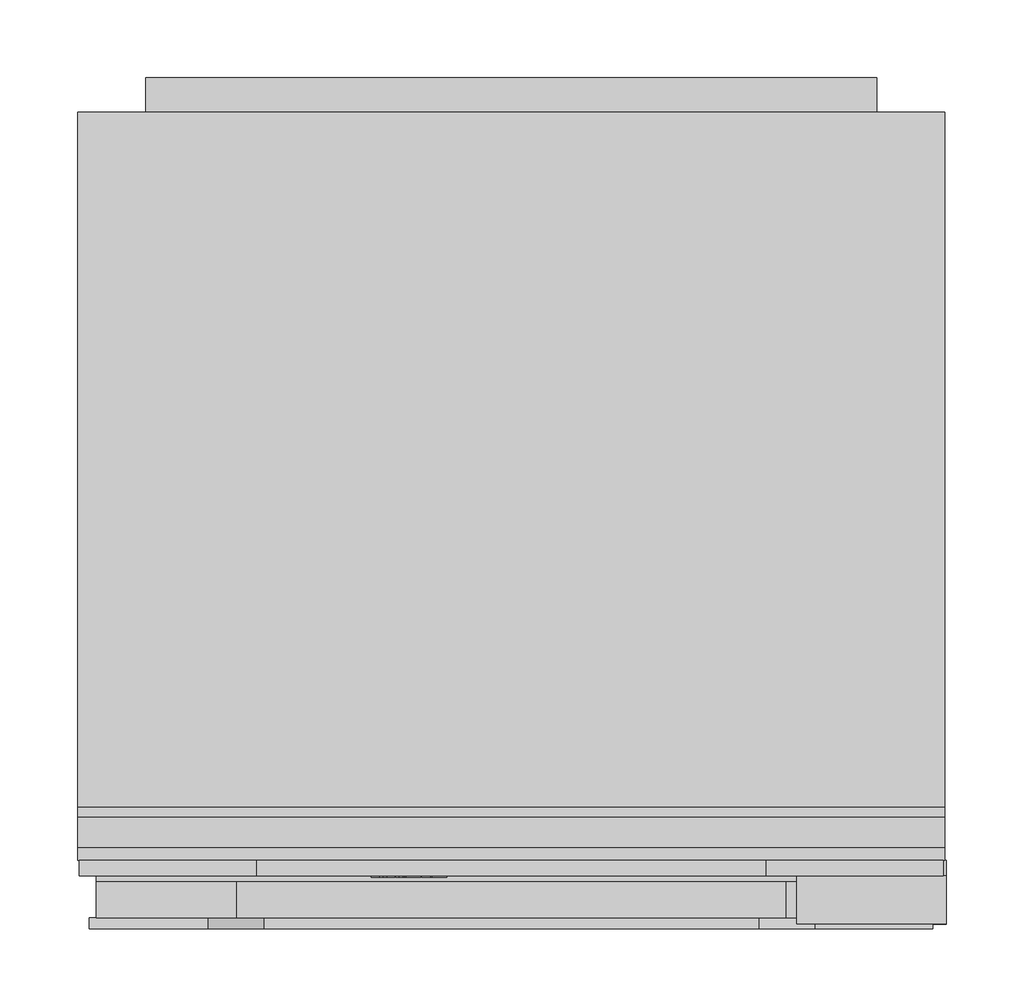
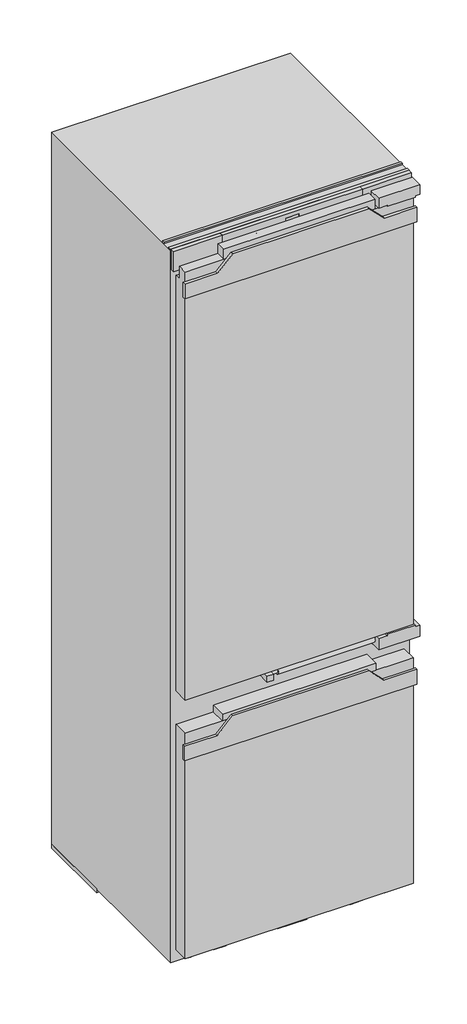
# Not in any storey: 1 proxy.
"""IFC4 building model written with IfcOpenShell, lengths in millimetres."""

import ifcopenshell
import ifcopenshell.guid

model = None  # the IFC model being written
_history = None  # IfcOwnerHistory: only IFC2X3 demands one
_inside = {}  # id of a spatial element -> (the spatial element, [elements in it])
_under = {}  # id of a project, library or spatial element -> (it, [spatial elements below it])
_declared = {}  # id of a project -> (the project, [libraries it declares])
_typed = {}  # id of a type object -> (the type object, [elements of that type])
_made_of = {}  # id of a material, layer set ... -> (it, [elements and type objects made of it])


def new_model(schema):
    """Start an empty IFC model of exactly this schema.

    Asked for "IFC4X3", IfcOpenShell would pick the latest addendum, in which some entities
    have other attributes; the version numbers below select the first issue.
    IFC2X3 requires an IfcOwnerHistory on every rooted entity: one is made here for all.
    """
    global model, _history
    if schema == "IFC4X3":
        model = ifcopenshell.file(schema_version=(4, 3, 0, 0))
    else:
        model = ifcopenshell.file(schema=schema)
    _inside.clear()
    _under.clear()
    _declared.clear()
    _typed.clear()
    _made_of.clear()
    _history = None
    if model.schema == "IFC2X3":
        org = make("IfcOrganization", Name="unknown")
        user = make(
            "IfcPersonAndOrganization",
            ThePerson=make("IfcPerson", FamilyName="unknown"),
            TheOrganization=org,
        )
        app = make(
            "IfcApplication",
            ApplicationDeveloper=org,
            Version="unknown",
            ApplicationFullName="unknown",
            ApplicationIdentifier="unknown",
        )
        _history = make(
            "IfcOwnerHistory",
            OwningUser=user,
            OwningApplication=app,
            ChangeAction="ADDED",
            CreationDate=0,
        )
    return model


def make(cls, **values):
    """One entity of the class cls with the attributes given. An attribute that is None is left unset."""
    return model.create_entity(
        cls, **{name: value for name, value in values.items() if value is not None}
    )


def rooted(cls, **values):
    """An entity with a GlobalId (a new one), such as an element, a storey or a relation."""
    return make(cls, GlobalId=ifcopenshell.guid.new(), OwnerHistory=_history, **values)


def si_unit(unit_type, name, prefix=None):
    """IfcSIUnit, for example si_unit("LENGTHUNIT", "METRE", prefix="MILLI")."""
    return make("IfcSIUnit", UnitType=unit_type, Prefix=prefix, Name=name)


def assignment(units):
    """IfcUnitAssignment: the units of a project."""
    return None if units is None else make("IfcUnitAssignment", Units=units)


def point(xyz):
    """IfcCartesianPoint."""
    return None if xyz is None else make("IfcCartesianPoint", Coordinates=xyz)


def direction(xyz):
    """IfcDirection."""
    return None if xyz is None else make("IfcDirection", DirectionRatios=xyz)


def frame(location, z_axis=None, x_axis=None):
    """IfcAxis2Placement3D, a coordinate frame: its origin and axes. An axis left out is left unset."""
    return make(
        "IfcAxis2Placement3D",
        Location=point(location),
        Axis=direction(z_axis),
        RefDirection=direction(x_axis),
    )


def frame_2d(location, x_axis=None):
    """IfcAxis2Placement2D, a coordinate frame in the plane: its origin and x axis."""
    return make(
        "IfcAxis2Placement2D", Location=point(location), RefDirection=direction(x_axis)
    )


def origin():
    """The frame at (0, 0, 0) with its axes left unset."""
    return frame((0.0, 0.0, 0.0))


def origin_with_axes():
    """The frame at (0, 0, 0) with the z axis (0, 0, 1) and the x axis (1, 0, 0) written out."""
    return frame((0.0, 0.0, 0.0), z_axis=(0.0, 0.0, 1.0), x_axis=(1.0, 0.0, 0.0))


def place(relative_to, where):
    """IfcLocalPlacement: puts the frame where relative to a parent placement (None: the world)."""
    return make(
        "IfcLocalPlacement", PlacementRelTo=relative_to, RelativePlacement=where
    )


def context(
    kind, dimensions, precision=None, world=None, true_north=None, identifier=None
):
    """IfcGeometricRepresentationContext, for example the 3D "Model" context."""
    return make(
        "IfcGeometricRepresentationContext",
        ContextIdentifier=identifier,
        ContextType=kind,
        CoordinateSpaceDimension=dimensions,
        Precision=precision,
        WorldCoordinateSystem=world,
        TrueNorth=true_north,
    )


def project(units=None, contexts=None):
    """IfcProject with its units and contexts."""
    return rooted(
        "IfcProject",
        Name="project",
        RepresentationContexts=contexts,
        UnitsInContext=assignment(units),
    )


def spatial(cls, under=None, at=None, **own):
    """A site, building, storey or space (cls), placed at a placement, below another one or the project."""
    s = rooted(cls, ObjectPlacement=at, **own)
    if under is not None:
        _under.setdefault(under.id(), (under, []))[1].append(s)
    return s


def polyline(points):
    """IfcPolyline through the points."""
    return make("IfcPolyline", Points=[point(p) for p in points])


def circle_curve(where, radius):
    """IfcCircle in the frame where."""
    return make("IfcCircle", Position=where, Radius=radius)


def ellipse_curve(where, semi_axis1, semi_axis2):
    """IfcEllipse in the frame where."""
    return make(
        "IfcEllipse", Position=where, SemiAxis1=semi_axis1, SemiAxis2=semi_axis2
    )


def trimmed(basis, trim1, trim2, sense, master):
    """IfcTrimmedCurve: the piece of a basis curve between two trims."""
    return make(
        "IfcTrimmedCurve",
        BasisCurve=basis,
        Trim1=trim1,
        Trim2=trim2,
        SenseAgreement=sense,
        MasterRepresentation=master,
    )


def segment(curve, same_sense, transition):
    """IfcCompositeCurveSegment."""
    return make(
        "IfcCompositeCurveSegment",
        Transition=transition,
        SameSense=same_sense,
        ParentCurve=curve,
    )


def composite_curve(segments, self_intersect=None):
    """IfcCompositeCurve: segments joined end to end."""
    return make("IfcCompositeCurve", Segments=segments, SelfIntersect=self_intersect)


def outline(outer, holes=None, kind="AREA"):
    """IfcArbitraryClosedProfileDef: a profile drawn as a closed curve; with holes, ...WithVoids."""
    if holes is None:
        return make("IfcArbitraryClosedProfileDef", ProfileType=kind, OuterCurve=outer)
    return make(
        "IfcArbitraryProfileDefWithVoids",
        ProfileType=kind,
        OuterCurve=outer,
        InnerCurves=holes,
    )


def extrude(swept, where, along, depth):
    """IfcExtrudedAreaSolid: the profile swept, set in the frame where, extruded along a direction by depth."""
    return make(
        "IfcExtrudedAreaSolid",
        SweptArea=swept,
        Position=where,
        ExtrudedDirection=direction(along),
        Depth=depth,
    )


def faces_of(points, faces, orient=None, outer=None):
    """IfcFace entities. A face is a list of loops; a loop is a list of indices into points, from 0.

    orient and outer hold one flag for each loop. By default every Orientation is true, the
    first loop of a face is its IfcFaceOuterBound and the others are IfcFaceBound.
    """
    made = []
    for i, loops in enumerate(faces):
        bounds = []
        for j, loop in enumerate(loops):
            is_outer = j == 0 if outer is None else outer[i][j]
            bounds.append(
                make(
                    "IfcFaceOuterBound" if is_outer else "IfcFaceBound",
                    Bound=make("IfcPolyLoop", Polygon=[points[k] for k in loop]),
                    Orientation=True if orient is None else orient[i][j],
                )
            )
        made.append(make("IfcFace", Bounds=bounds))
    return made


def faceted_brep(points, faces, orient=None, outer=None, voids=None):
    """IfcFacetedBrep: a solid bounded by flat faces; with voids (closed shells), ...WithVoids."""
    shared = [point(p) for p in points]
    hull = make("IfcClosedShell", CfsFaces=faces_of(shared, faces, orient, outer))
    if voids is None:
        return make("IfcFacetedBrep", Outer=hull)
    return make(
        "IfcFacetedBrepWithVoids",
        Outer=hull,
        Voids=[
            make(cls, CfsFaces=faces_of(shared, fs, o, b)) for cls, fs, o, b in voids
        ],
    )


def shape(context_of_items, identifier, shape_type, items):
    """IfcShapeRepresentation: the items that make up one representation, for example the "Body"."""
    return make(
        "IfcShapeRepresentation",
        ContextOfItems=context_of_items,
        RepresentationIdentifier=identifier,
        RepresentationType=shape_type,
        Items=items,
    )


def source(mapping_origin, context_of_items, identifier, shape_type, items):
    """IfcRepresentationMap: a shape defined once, which mapped items show again and again."""
    return make(
        "IfcRepresentationMap",
        MappingOrigin=mapping_origin,
        MappedRepresentation=shape(context_of_items, identifier, shape_type, items),
    )


def transform(
    local_origin,
    x_axis=None,
    y_axis=None,
    z_axis=None,
    scale=None,
    scale2=None,
    scale3=None,
    uniform=True,
):
    """IfcCartesianTransformationOperator3D, or its non-uniform kind. x_axis, y_axis, z_axis: its Axis1, 2, 3."""
    if uniform:
        return make(
            "IfcCartesianTransformationOperator3D",
            Axis1=direction(x_axis),
            Axis2=direction(y_axis),
            LocalOrigin=point(local_origin),
            Scale=scale,
            Axis3=direction(z_axis),
        )
    return make(
        "IfcCartesianTransformationOperator3DnonUniform",
        Axis1=direction(x_axis),
        Axis2=direction(y_axis),
        LocalOrigin=point(local_origin),
        Scale=scale,
        Axis3=direction(z_axis),
        Scale2=scale2,
        Scale3=scale3,
    )


def mapped(mapping_source, mapping_target):
    """IfcMappedItem: shows the shape of a source again, moved by a transform."""
    return make(
        "IfcMappedItem", MappingSource=mapping_source, MappingTarget=mapping_target
    )


def made_of(thing, what):
    """Note that an element or type object is made of a material, layer set ...; save() writes the relation."""
    if what is not None:
        _made_of.setdefault(what.id(), (what, []))[1].append(thing)
    return thing


def element(
    cls,
    number,
    at=None,
    inside=None,
    cuts=None,
    type_object=None,
    material=None,
    context=None,
    identifier="Body",
    shape_type=None,
    held_by="IfcProductDefinitionShape",
    body=None,
    shapes=None,
    **own,
):
    """One element of the class cls, such as IfcWall. Its Tag is "e" and its number.

    at: its placement. inside: the storey or other place that contains it. cuts: it is an
    opening in that element (IfcRelVoidsElement). A single representation is given by context,
    identifier, shape_type and body (its items); several are given by shapes. held_by: the class
    of the entity that holds the representations. save() writes the other relations.
    """
    e = rooted(cls, Tag="e%d" % number, ObjectPlacement=at, **own)
    if body is not None:
        shapes = [shape(context, identifier, shape_type, body)]
    if shapes is not None:
        e.Representation = make(held_by, Representations=shapes)
    if inside is not None:
        _inside.setdefault(inside.id(), (inside, []))[1].append(e)
    if cuts is not None:
        rooted(
            "IfcRelVoidsElement", RelatingBuildingElement=cuts, RelatedOpeningElement=e
        )
    if type_object is not None:
        _typed.setdefault(type_object.id(), (type_object, []))[1].append(e)
    return made_of(e, material)


def aggregate(whole, parts):
    """IfcRelAggregates: a whole, such as a stair, and the parts it consists of."""
    return rooted("IfcRelAggregates", RelatingObject=whole, RelatedObjects=parts)


def save(model, path):
    """Write the relations noted so far, then the file.

    IfcRelAggregates (storeys below a building ...), IfcRelContainedInSpatialStructure (elements
    in a storey), IfcRelDefinesByType, IfcRelAssociatesMaterial and IfcRelDeclares: one each for
    every whole, place, type object, material and project.
    """
    for whole, parts in _under.values():
        aggregate(whole, parts)
    for where, things in _inside.values():
        rooted(
            "IfcRelContainedInSpatialStructure",
            RelatedElements=things,
            RelatingStructure=where,
        )
    for kind, things in _typed.values():
        rooted("IfcRelDefinesByType", RelatedObjects=things, RelatingType=kind)
    for what, things in _made_of.values():
        rooted("IfcRelAssociatesMaterial", RelatedObjects=things, RelatingMaterial=what)
    for by, libraries in _declared.values():
        rooted("IfcRelDeclares", RelatingContext=by, RelatedDefinitions=libraries)
    model.write(path)


def plane_surface(at):
    """IfcPlane: the flat surface through the origin of the frame at, square to its z axis."""
    return make("IfcPlane", Position=at)


def cylinder_surface(at, radius):
    """IfcCylindricalSurface: all points at the distance radius from the z axis of the frame at."""
    return make("IfcCylindricalSurface", Position=at, Radius=radius)


def revolved_surface(curve, axis_point, axis_direction):
    """IfcSurfaceOfRevolution: the curve turned about the line through axis_point along axis_direction."""
    return make(
        "IfcSurfaceOfRevolution",
        SweptCurve=make("IfcArbitraryOpenProfileDef", ProfileType="CURVE", Curve=curve),
        AxisPosition=make("IfcAxis1Placement", Location=point(axis_point), Axis=direction(axis_direction)),
    )


def extruded_surface(curve, direction_of_extrusion, depth):
    """IfcSurfaceOfLinearExtrusion: the curve pushed along a direction by depth."""
    return make(
        "IfcSurfaceOfLinearExtrusion",
        SweptCurve=make("IfcArbitraryOpenProfileDef", ProfileType="CURVE", Curve=curve),
        ExtrudedDirection=direction(direction_of_extrusion),
        Depth=depth,
    )


def advanced_brep(points, edges, surfaces, faces):
    """IfcAdvancedBrep: a solid bounded by faces that lie on surfaces and meet in shared edges.

    An edge is (start, end): straight between two places in points (the first is 0);
    or (start, end, curve); or (start, end, curve, False) where it runs against its curve.
    A face is (place in surfaces, loops), or (place, loops, False) where it looks against
    its surface's normal. A loop lists edges by number (the first is 1), with a minus sign
    where the edge is run from its end to its start. The first loop is the outer one.
    """
    corners = [point(p) for p in points]
    vertices = [make("IfcVertexPoint", VertexGeometry=c) for c in corners]
    made = []
    for start, end, *more in edges:
        made.append(
            make(
                "IfcEdgeCurve",
                EdgeStart=vertices[start],
                EdgeEnd=vertices[end],
                EdgeGeometry=more[0] if more else make("IfcPolyline", Points=[corners[start], corners[end]]),
                SameSense=more[1] if len(more) > 1 else True,
            )
        )
    hull = []
    for where, loops, *sense in faces:
        bounds = []
        for j, loop in enumerate(loops):
            ring = [make("IfcOrientedEdge", EdgeElement=made[abs(k) - 1], Orientation=k > 0) for k in loop]
            bounds.append(
                make(
                    "IfcFaceOuterBound" if j == 0 else "IfcFaceBound",
                    Bound=make("IfcEdgeLoop", EdgeList=ring),
                    Orientation=True,
                )
            )
        hull.append(make("IfcAdvancedFace", Bounds=bounds, FaceSurface=surfaces[where], SameSense=sense[0] if sense else True))
    return make("IfcAdvancedBrep", Outer=make("IfcClosedShell", CfsFaces=hull))


def specialty_equipment_4f9cea4c(model_context):
    return source(origin(), model_context, "Body", "SolidModel", [
        advanced_brep(
        [(-46.64, 33.0, 1742.896), (-46.64, 33.0, 1743.704), (-41.288, 33.0, 1743.704), (-50.6, 33.0, 1743.704), (-48.4, 33.0, 1741.0), (-41.424, 33.0, 1742.896), (-43.84, 33.0, 1742.896), (-45.744, 33.0, 1742.0), (-46.64, 33.0, 1744.728), (-46.64, 33.0, 1745.6), (-45.272, 33.0, 1745.6), (-45.272, 33.0, 1744.728), (-46.64, 34.0, 1742.896), (-45.744, 34.0, 1742.0), (-43.84, 34.0, 1742.896), (-41.424, 34.0, 1742.896), (-48.4, 34.0, 1741.0), (-50.6, 34.0, 1743.704), (-41.288, 34.0, 1743.704), (-46.64, 34.0, 1743.704), (-46.64, 34.0, 1744.728), (-45.272, 34.0, 1744.728), (-45.272, 34.0, 1745.6), (-46.64, 34.0, 1745.6)],
        [
            (0, 1),
            (1, 2),
            (2, 3, ellipse_curve(frame((-45.944, 33.0, 1743.704), z_axis=(0.0, -1.0, 0.0), x_axis=(-1.0, 0.0, 0.0)), 4.656, 3.848)),
            (3, 4, circle_curve(frame((-47.5039564, 33.0, 1743.976), z_axis=(0.0, -1.0, 0.0), x_axis=(0.0, 0.0, -1.0)), 3.1079688)),
            (4, 5, circle_curve(frame((-46.0372064, 33.0, 1746.088), z_axis=(0.0, -1.0, 0.0), x_axis=(0.0, 0.0, -1.0)), 5.6098607)),
            (5, 6),
            (6, 7, circle_curve(frame((-45.3529412, 33.0, 1743.64), z_axis=(0.0, 1.0, 0.0), x_axis=(0.0, 0.0, -1.0)), 1.6859795)),
            (7, 0, circle_curve(frame((-45.744, 33.0, 1742.896), z_axis=(0.0, 1.0, 0.0), x_axis=(0.0, 0.0, -1.0)), 0.896)),
            (8, 9),
            (9, 10, circle_curve(frame((-45.956, 33.0, 1745.6), z_axis=(0.0, 1.0, 0.0), x_axis=(0.0, 0.0, -1.0)), 0.684)),
            (10, 11),
            (11, 8),
            (12, 13, circle_curve(frame((-45.744, 34.0, 1742.896), z_axis=(0.0, -1.0, 0.0), x_axis=(0.0, 0.0, -1.0)), 0.896)),
            (13, 14, circle_curve(frame((-45.3529412, 34.0, 1743.64), z_axis=(0.0, -1.0, 0.0), x_axis=(0.0, 0.0, -1.0)), 1.6859795)),
            (14, 15),
            (15, 16, circle_curve(frame((-46.0372064, 34.0, 1746.088), z_axis=(0.0, 1.0, 0.0), x_axis=(0.0, 0.0, -1.0)), 5.6098607)),
            (16, 17, circle_curve(frame((-47.5039564, 34.0, 1743.976), z_axis=(0.0, 1.0, 0.0), x_axis=(0.0, 0.0, -1.0)), 3.1079688)),
            (17, 18, ellipse_curve(frame((-45.944, 34.0, 1743.704), z_axis=(0.0, 1.0, 0.0), x_axis=(-1.0, 0.0, 0.0)), 4.656, 3.848)),
            (18, 19),
            (19, 12),
            (20, 21),
            (21, 22),
            (22, 23, circle_curve(frame((-45.956, 34.0, 1745.6), z_axis=(0.0, -1.0, 0.0), x_axis=(0.0, 0.0, -1.0)), 0.684)),
            (23, 20),
            (0, 12),
            (19, 1),
            (18, 2),
            (5, 15),
            (14, 6),
            (17, 3),
            (13, 7),
            (16, 4),
            (8, 20),
            (23, 9),
            (22, 10),
            (21, 11),
        ],
        [
            plane_surface(frame((-46.64, 33.0, 1743.704), z_axis=(0.0, -1.0, 0.0), x_axis=(0.0, 0.0, 1.0))),
            plane_surface(frame((-46.64, 34.0, 1743.704), z_axis=(0.0, 1.0, 0.0), x_axis=(0.0, 0.0, -1.0))),
            plane_surface(frame((-46.64, 33.0, 1742.896), z_axis=(1.0, 0.0, 0.0), x_axis=(0.0, 1.0, 0.0))),
            plane_surface(frame((-46.64, 33.0, 1743.704), z_axis=(0.0, 0.0, -1.0), x_axis=(0.0, 1.0, 0.0))),
            plane_surface(frame((-41.424, 33.0, 1742.896), z_axis=(0.0, 0.0, 1.0), x_axis=(0.0, 1.0, 0.0))),
            extruded_surface(trimmed(ellipse_curve(frame((-45.944, 35.0, 1743.704), z_axis=(0.0, -1.0, 0.0), x_axis=(-1.0, 0.0, 0.0)), 4.656, 3.848), [point((-41.288, 35.0, 1743.704))], [point((-50.6, 35.0, 1743.704))], True, "CARTESIAN"), (0.0, -1.0, 0.0), 1.0),
            revolved_surface(polyline([(-45.3529412, 34.0, 1741.9540205), (-45.3529412, 33.0, 1741.9540205)]), (-45.3529412, 34.0, 1743.64), (0.0, 1.0, 0.0)),
            revolved_surface(polyline([(-45.744, 34.0, 1742.0), (-45.744, 33.0, 1742.0)]), (-45.744, 34.0, 1742.896), (0.0, 1.0, 0.0)),
            cylinder_surface(frame((-47.5039564, 34.0, 1743.976), z_axis=(0.0, -1.0, 0.0), x_axis=(0.0, 0.0, -1.0)), 3.1079688),
            cylinder_surface(frame((-46.0372064, 34.0, 1746.088), z_axis=(0.0, -1.0, 0.0), x_axis=(0.0, 0.0, -1.0)), 5.6098607),
            plane_surface(frame((-46.64, 33.0, 1744.728), z_axis=(1.0, 0.0, 0.0), x_axis=(0.0, 1.0, 0.0))),
            revolved_surface(polyline([(-45.956, 34.0, 1744.916), (-45.956, 33.0, 1744.916)]), (-45.956, 34.0, 1745.6), (0.0, 1.0, 0.0)),
            plane_surface(frame((-45.272, 33.0, 1745.6), z_axis=(-1.0, 0.0, 0.0), x_axis=(0.0, 1.0, 0.0))),
            plane_surface(frame((-45.272, 33.0, 1744.728), z_axis=(0.0, 0.0, 1.0), x_axis=(0.0, 1.0, 0.0))),
        ],
        [
            (0, [[1, 2, 3, 4, 5, 6, 7, 8], [9, 10, 11, 12]]),
            (1, [[13, 14, 15, 16, 17, 18, 19, 20], [21, 22, 23, 24]]),
            (2, [[-1, 25, -20, 26]]),
            (3, [[-2, -26, -19, 27]]),
            (4, [[-6, 28, -15, 29]]),
            (5, [[-3, -27, -18, 30]]),
            (6, [[-7, -29, -14, 31]]),
            (7, [[-8, -31, -13, -25]]),
            (8, [[-4, -30, -17, 32]]),
            (9, [[-5, -32, -16, -28]]),
            (10, [[-9, 33, -24, 34]]),
            (11, [[-10, -34, -23, 35]]),
            (12, [[-11, -35, -22, 36]]),
            (13, [[-12, -36, -21, -33]]),
        ],
    ),
        advanced_brep(
        [(-63.336, 33.0, 1742.896), (-63.336, 33.0, 1743.704), (-57.984, 33.0, 1743.704), (-67.296, 33.0, 1743.704), (-65.096, 33.0, 1741.0), (-58.12, 33.0, 1742.896), (-60.536, 33.0, 1742.896), (-62.44, 33.0, 1742.0), (-63.336, 33.0, 1744.728), (-63.336, 33.0, 1745.6), (-61.968, 33.0, 1745.6), (-61.968, 33.0, 1744.728), (-63.336, 34.0, 1742.896), (-62.44, 34.0, 1742.0), (-60.536, 34.0, 1742.896), (-58.12, 34.0, 1742.896), (-65.096, 34.0, 1741.0), (-67.296, 34.0, 1743.704), (-57.984, 34.0, 1743.704), (-63.336, 34.0, 1743.704), (-63.336, 34.0, 1744.728), (-61.968, 34.0, 1744.728), (-61.968, 34.0, 1745.6), (-63.336, 34.0, 1745.6)],
        [
            (0, 1),
            (1, 2),
            (2, 3, ellipse_curve(frame((-62.64, 33.0, 1743.704), z_axis=(0.0, -1.0, 0.0), x_axis=(-1.0, 0.0, 0.0)), 4.656, 3.848)),
            (3, 4, circle_curve(frame((-64.1999564, 33.0, 1743.976), z_axis=(0.0, -1.0, 0.0), x_axis=(0.0, 0.0, -1.0)), 3.1079688)),
            (4, 5, circle_curve(frame((-62.7332064, 33.0, 1746.088), z_axis=(0.0, -1.0, 0.0), x_axis=(0.0, 0.0, -1.0)), 5.6098607)),
            (5, 6),
            (6, 7, circle_curve(frame((-62.0489412, 33.0, 1743.64), z_axis=(0.0, 1.0, 0.0), x_axis=(0.0, 0.0, -1.0)), 1.6859795)),
            (7, 0, circle_curve(frame((-62.44, 33.0, 1742.896), z_axis=(0.0, 1.0, 0.0), x_axis=(0.0, 0.0, -1.0)), 0.896)),
            (8, 9),
            (9, 10, circle_curve(frame((-62.652, 33.0, 1745.6), z_axis=(0.0, 1.0, 0.0), x_axis=(0.0, 0.0, -1.0)), 0.684)),
            (10, 11),
            (11, 8),
            (12, 13, circle_curve(frame((-62.44, 34.0, 1742.896), z_axis=(0.0, -1.0, 0.0), x_axis=(0.0, 0.0, -1.0)), 0.896)),
            (13, 14, circle_curve(frame((-62.0489412, 34.0, 1743.64), z_axis=(0.0, -1.0, 0.0), x_axis=(0.0, 0.0, -1.0)), 1.6859795)),
            (14, 15),
            (15, 16, circle_curve(frame((-62.7332064, 34.0, 1746.088), z_axis=(0.0, 1.0, 0.0), x_axis=(0.0, 0.0, -1.0)), 5.6098607)),
            (16, 17, circle_curve(frame((-64.1999564, 34.0, 1743.976), z_axis=(0.0, 1.0, 0.0), x_axis=(0.0, 0.0, -1.0)), 3.1079688)),
            (17, 18, ellipse_curve(frame((-62.64, 34.0, 1743.704), z_axis=(0.0, 1.0, 0.0), x_axis=(-1.0, 0.0, 0.0)), 4.656, 3.848)),
            (18, 19),
            (19, 12),
            (20, 21),
            (21, 22),
            (22, 23, circle_curve(frame((-62.652, 34.0, 1745.6), z_axis=(0.0, -1.0, 0.0), x_axis=(0.0, 0.0, -1.0)), 0.684)),
            (23, 20),
            (0, 12),
            (19, 1),
            (18, 2),
            (5, 15),
            (14, 6),
            (17, 3),
            (13, 7),
            (16, 4),
            (8, 20),
            (23, 9),
            (22, 10),
            (21, 11),
        ],
        [
            plane_surface(frame((-63.336, 33.0, 1743.704), z_axis=(0.0, -1.0, 0.0), x_axis=(0.0, 0.0, 1.0))),
            plane_surface(frame((-63.336, 34.0, 1743.704), z_axis=(0.0, 1.0, 0.0), x_axis=(0.0, 0.0, -1.0))),
            plane_surface(frame((-63.336, 33.0, 1742.896), z_axis=(1.0, 0.0, 0.0), x_axis=(0.0, 1.0, 0.0))),
            plane_surface(frame((-63.336, 33.0, 1743.704), z_axis=(0.0, 0.0, -1.0), x_axis=(0.0, 1.0, 0.0))),
            plane_surface(frame((-58.12, 33.0, 1742.896), z_axis=(0.0, 0.0, 1.0), x_axis=(0.0, 1.0, 0.0))),
            extruded_surface(trimmed(ellipse_curve(frame((-62.64, 35.0, 1743.704), z_axis=(0.0, -1.0, 0.0), x_axis=(-1.0, 0.0, 0.0)), 4.656, 3.848), [point((-57.984, 35.0, 1743.704))], [point((-67.296, 35.0, 1743.704))], True, "CARTESIAN"), (0.0, -1.0, 0.0), 1.0),
            revolved_surface(polyline([(-62.0489412, 34.0, 1741.9540205), (-62.0489412, 33.0, 1741.9540205)]), (-62.0489412, 34.0, 1743.64), (0.0, 1.0, 0.0)),
            revolved_surface(polyline([(-62.44, 34.0, 1742.0), (-62.44, 33.0, 1742.0)]), (-62.44, 34.0, 1742.896), (0.0, 1.0, 0.0)),
            cylinder_surface(frame((-64.1999564, 34.0, 1743.976), z_axis=(0.0, -1.0, 0.0), x_axis=(0.0, 0.0, -1.0)), 3.1079688),
            cylinder_surface(frame((-62.7332064, 34.0, 1746.088), z_axis=(0.0, -1.0, 0.0), x_axis=(0.0, 0.0, -1.0)), 5.6098607),
            plane_surface(frame((-63.336, 33.0, 1744.728), z_axis=(1.0, 0.0, 0.0), x_axis=(0.0, 1.0, 0.0))),
            revolved_surface(polyline([(-62.652, 34.0, 1744.916), (-62.652, 33.0, 1744.916)]), (-62.652, 34.0, 1745.6), (0.0, 1.0, 0.0)),
            plane_surface(frame((-61.968, 33.0, 1745.6), z_axis=(-1.0, 0.0, 0.0), x_axis=(0.0, 1.0, 0.0))),
            plane_surface(frame((-61.968, 33.0, 1744.728), z_axis=(0.0, 0.0, 1.0), x_axis=(0.0, 1.0, 0.0))),
        ],
        [
            (0, [[1, 2, 3, 4, 5, 6, 7, 8], [9, 10, 11, 12]]),
            (1, [[13, 14, 15, 16, 17, 18, 19, 20], [21, 22, 23, 24]]),
            (2, [[-1, 25, -20, 26]]),
            (3, [[-2, -26, -19, 27]]),
            (4, [[-6, 28, -15, 29]]),
            (5, [[-3, -27, -18, 30]]),
            (6, [[-7, -29, -14, 31]]),
            (7, [[-8, -31, -13, -25]]),
            (8, [[-4, -30, -17, 32]]),
            (9, [[-5, -32, -16, -28]]),
            (10, [[-9, 33, -24, 34]]),
            (11, [[-10, -34, -23, 35]]),
            (12, [[-11, -35, -22, 36]]),
            (13, [[-12, -36, -21, -33]]),
        ],
    ),
        extrude(outline(polyline([(1748.528, -72.08), (1747.232, -71.472), (1748.496, -68.76), (1749.792, -69.36), (1748.528, -72.08)])), frame((0.0, 33.0, 0.0), z_axis=(0.0, 1.0, 0.0), x_axis=(0.0, 0.0, 1.0)), (0.0, 0.0, 1.0), 1.0),
        extrude(outline(polyline([(1747.056, -74.056), (1745.624, -74.056), (1745.624, -73.104), (1742.344, -73.104), (1742.344, -74.056), (1741.0, -74.056), (1741.0, -67.744), (1742.344, -67.744), (1742.344, -68.672), (1747.056, -68.672), (1747.056, -74.056)])), frame((0.0, 33.0, 0.0), z_axis=(0.0, 1.0, 0.0), x_axis=(0.0, 0.0, 1.0)), (0.0, 0.0, 1.0), 1.0),
        extrude(outline(polyline([(1747.696, -57.536), (1747.696, -56.576), (1742.344, -56.576), (1742.344, -57.536), (1741.0, -57.536), (1741.0, -51.048), (1742.344, -51.048), (1742.344, -52.032), (1749.0, -52.032), (1749.0, -57.536), (1747.696, -57.536)])), frame((0.0, 33.0, 0.0), z_axis=(0.0, 1.0, 0.0), x_axis=(0.0, 0.0, 1.0)), (0.0, 0.0, 1.0), 1.0),
        extrude(outline(polyline([(1747.696, -90.0), (1747.696, -89.032), (1742.344, -89.032), (1742.344, -90.0), (1741.0, -90.0), (1741.0, -86.48), (1742.344, -86.48), (1742.344, -87.44), (1745.7471247, -87.44), (1741.0, -83.864), (1745.8152223, -80.272), (1742.344, -80.272), (1742.344, -81.256), (1741.0, -81.256), (1741.0, -74.872), (1742.344, -74.872), (1742.344, -75.888), (1747.696, -75.888), (1747.696, -74.872), (1749.0, -74.872), (1749.0, -79.744), (1746.0, -82.08), (1749.0, -84.424), (1749.0, -90.0), (1747.696, -90.0)])), frame((0.0, 33.0, 0.0), z_axis=(0.0, 1.0, 0.0), x_axis=(0.0, 0.0, 1.0)), (0.0, 0.0, 1.0), 1.0),
        faceted_brep([(163.5, 34.0, 1770.0), (-163.5, 34.0, 1770.0), (-163.5, 34.0, 1721.0), (163.5, 34.0, 1721.0), (15.0, 34.0, 1761.0), (15.0, 34.0, 1731.0), (-15.0, 34.0, 1731.0), (-15.0, 34.0, 1761.0), (163.5, 44.0, 1770.0), (163.5, 44.0, 1721.0), (-163.5, 44.0, 1721.0), (-163.5, 44.0, 1770.0), (15.0, 35.0, 1761.0), (-15.0, 35.0, 1761.0), (-15.0, 35.0, 1731.0), (15.0, 35.0, 1731.0)], [[[0, 1, 2, 3], [4, 5, 6, 7]], [[8, 9, 10, 11]], [[0, 3, 9, 8]], [[3, 2, 10, 9]], [[2, 1, 11, 10]], [[1, 0, 8, 11]], [[12, 13, 14, 15]], [[12, 15, 5, 4]], [[15, 14, 6, 5]], [[14, 13, 7, 6]], [[13, 12, 4, 7]]]),
        extrude(outline(polyline([(163.5, 44.0), (277.5, 44.0), (277.5, 34.0), (163.5, 34.0), (163.5, 44.0)])), frame((0.0, 0.0, 1721.0), z_axis=(0.0, 0.0, 1.0), x_axis=(1.0, 0.0, 0.0)), (0.0, 0.0, 1.0), 49.0),
        extrude(outline(polyline([(-277.5, 44.0), (-163.5, 44.0), (-163.5, 34.0), (-277.5, 34.0), (-277.5, 44.0)])), frame((0.0, 0.0, 1721.0), z_axis=(0.0, 0.0, 1.0), x_axis=(1.0, 0.0, 0.0)), (0.0, 0.0, 1.0), 49.0),
        extrude(outline(polyline([(-15.0, 35.0), (15.0, 35.0), (15.0, 34.0), (-15.0, 34.0), (-15.0, 35.0)])), frame((0.0, 0.0, 1731.0), z_axis=(0.0, 0.0, 1.0), x_axis=(1.0, 0.0, 0.0)), (0.0, 0.0, 1.0), 30.0),
        extrude(outline(polyline([(1647.0, -235.0), (27.0, -235.0), (27.0, 235.0), (130.0, 235.0), (130.0, 170.0), (160.0, 170.0), (160.0, 235.0), (1647.0, 235.0), (1647.0, -235.0)])), frame((0.0, 525.0, 0.0), z_axis=(0.0, 1.0, 0.0), x_axis=(0.0, 0.0, 1.0)), (0.0, 0.0, 1.0), 22.0),
        extrude(outline(polyline([(-144.929185, 52.0), (-174.0, 52.0), (-194.4885559, 345.0), (-165.4177409, 345.0), (-144.929185, 52.0)])), origin_with_axes(), (0.0, 0.0, 1.0), 10.0),
        extrude(outline(polyline([(144.929185, 52.0), (165.4177409, 345.0), (194.4885559, 345.0), (174.0, 52.0), (144.929185, 52.0)])), origin_with_axes(), (0.0, 0.0, 1.0), 10.0),
        extrude(outline(polyline([(538.651012, 148.8988246), (538.651012, 150.150839), (545.8850603, 150.150839), (545.8850603, 140.1043073), (538.5027529, 140.1043073), (538.5027529, 141.3585545), (544.6152499, 141.3585545), (544.6152499, 144.6556887), (538.967462, 144.6556887), (538.967462, 145.9162842), (544.6270824, 145.9162842), (544.6270824, 148.8988246), (538.651012, 148.8988246)])), frame((193.5, 0.0, 0.0), z_axis=(1.0, 0.0, 0.0), x_axis=(0.0, 1.0, 0.0)), (0.0, 0.0, 1.0), 1.0),
        extrude(outline(polyline([(536.624075, 150.150839), (536.624075, 140.1043073), (530.3334819, 140.1043073), (530.3334819, 141.3573374), (535.3334819, 141.3573374), (535.3334819, 150.150839), (536.624075, 150.150839)])), frame((193.5, 0.0, 0.0), z_axis=(1.0, 0.0, 0.0), x_axis=(0.0, 1.0, 0.0)), (0.0, 0.0, 1.0), 1.0),
        advanced_brep(
        [(232.0, 525.0, 145.0), (217.0, 525.0, 145.0), (232.0, 546.5, 145.0), (217.0, 531.5, 145.0), (194.5, 546.5, 145.0), (194.5, 531.5, 145.0)],
        [
            (0, 1, circle_curve(frame((224.5, 525.0, 145.0), z_axis=(0.0, -1.0, 0.0), x_axis=(-1.0, 0.0, 0.0)), 7.5)),
            (1, 0, circle_curve(frame((224.5, 525.0, 145.0), z_axis=(0.0, -1.0, 0.0), x_axis=(-1.0, 0.0, 0.0)), 7.5)),
            (0, 2),
            (2, 3, ellipse_curve(frame((224.5, 539.0, 145.0), z_axis=(0.7071067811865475, -0.7071067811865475, 0.0), x_axis=(-0.7071067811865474, -0.7071067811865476, 0.0)), 10.6066017, 7.5)),
            (3, 1),
            (3, 2, ellipse_curve(frame((224.5, 539.0, 145.0), z_axis=(0.7071067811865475, -0.7071067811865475, 0.0), x_axis=(-0.7071067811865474, -0.7071067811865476, 0.0)), 10.6066017, 7.5)),
            (4, 5, circle_curve(frame((194.5, 539.0, 145.0), z_axis=(-1.0, 0.0, 0.0), x_axis=(0.0, -1.0, 0.0)), 7.5)),
            (5, 4, circle_curve(frame((194.5, 539.0, 145.0), z_axis=(-1.0, 0.0, 0.0), x_axis=(0.0, -1.0, 0.0)), 7.5)),
            (2, 4),
            (5, 3),
        ],
        [
            plane_surface(frame((224.5, 525.0, 145.0), z_axis=(0.0, -1.0, 0.0), x_axis=(0.0, 0.0, 1.0))),
            cylinder_surface(frame((224.5, 525.0, 145.0), z_axis=(0.0, -1.0, 0.0), x_axis=(-1.0, 0.0, 0.0)), 7.5),
            plane_surface(frame((194.5, 539.0, 145.0), z_axis=(-1.0, 0.0, 0.0), x_axis=(0.0, 0.0, 1.0))),
            cylinder_surface(frame((224.5, 539.0, 145.0), z_axis=(1.0, 0.0, 0.0), x_axis=(0.0, -1.0, 0.0)), 7.5),
        ],
        [
            (0, [[1, 2]]),
            (1, [[-1, 3, 4, 5]]),
            (1, [[-2, -5, 6, -3]]),
            (2, [[7, 8]]),
            (3, [[-4, 9, -8, 10]]),
            (3, [[-6, -10, -7, -9]]),
        ],
    ),
        extrude(outline(polyline([(-34.0, 44.0), (34.0, 44.0), (34.0, 35.0), (-34.0, 35.0), (-34.0, 44.0)])), frame((0.0, 0.0, 13.0), z_axis=(0.0, 0.0, 1.0), x_axis=(1.0, 0.0, 0.0)), (0.0, 0.0, 1.0), 19.0),
        extrude(outline(polyline([(-233.5, 348.0), (-233.5, 487.0), (233.5, 487.0), (233.5, 348.0), (-233.5, 348.0)])), frame((0.0, 0.0, 50.0), z_axis=(0.0, 0.0, 1.0), x_axis=(1.0, 0.0, 0.0)), (0.0, 0.0, 1.0), 200.0),
        extrude(outline(polyline([(-233.5, 44.0), (-233.5, 487.0), (233.5, 487.0), (233.5, 44.0), (-233.5, 44.0)])), frame((0.0, 0.0, 895.0), z_axis=(0.0, 0.0, 1.0), x_axis=(1.0, 0.0, 0.0)), (0.0, 0.0, 1.0), 3.0),
        extrude(outline(polyline([(-233.5, 179.0), (-233.5, 487.0), (233.5, 487.0), (233.5, 179.0), (-233.5, 179.0)])), frame((0.0, 0.0, 1471.0), z_axis=(0.0, 0.0, 1.0), x_axis=(1.0, 0.0, 0.0)), (0.0, 0.0, 1.0), 221.0),
        extrude(outline(composite_curve([segment(trimmed(circle_curve(frame_2d((228.0, 64.0)), 11.0), [point((239.0, 64.0))], [point((217.0, 64.0))], False, "CARTESIAN"), True, "CONTINUOUS"), segment(trimmed(circle_curve(frame_2d((228.0, 64.0)), 11.0), [point((217.0, 64.0))], [point((239.0, 64.0))], False, "CARTESIAN"), True, "CONTINUOUS")], self_intersect=False)), origin_with_axes(), (0.0, 0.0, 1.0), 10.0),
        extrude(outline(composite_curve([segment(trimmed(circle_curve(frame_2d((-228.0, 64.0)), 11.0), [point((-217.0, 64.0))], [point((-239.0, 64.0))], False, "CARTESIAN"), True, "CONTINUOUS"), segment(trimmed(circle_curve(frame_2d((-228.0, 64.0)), 11.0), [point((-239.0, 64.0))], [point((-217.0, 64.0))], False, "CARTESIAN"), True, "CONTINUOUS")], self_intersect=False)), origin_with_axes(), (0.0, 0.0, 1.0), 10.0),
        extrude(outline(polyline([(278.5, 525.0), (278.5, 345.0), (-278.5, 345.0), (-278.5, 525.0), (278.5, 525.0)])), origin_with_axes(), (0.0, 0.0, 1.0), 10.0),
        extrude(outline(polyline([(278.5, 52.0), (278.5, 44.0), (-278.5, 44.0), (-278.5, 52.0), (278.5, 52.0)])), frame((0.0, 0.0, 1767.0), z_axis=(0.0, 0.0, 1.0), x_axis=(1.0, 0.0, 0.0)), (0.0, 0.0, 1.0), 3.0),
        extrude(outline(polyline([(278.5, 78.0), (278.5, 72.0), (-278.5, 72.0), (-278.5, 78.0), (278.5, 78.0)])), frame((0.0, 0.0, 1767.0), z_axis=(0.0, 0.0, 1.0), x_axis=(1.0, 0.0, 0.0)), (0.0, 0.0, 1.0), 3.0),
        faceted_brep([(278.5, 525.0, 1767.0), (-278.5, 525.0, 1767.0), (-278.5, 44.0, 1767.0), (278.5, 44.0, 1767.0), (278.5, 525.0, 10.0), (278.5, 44.0, 10.0), (-278.5, 44.0, 10.0), (-278.5, 525.0, 10.0), (233.5, 44.0, 1692.0), (233.5, 44.0, 701.0), (-233.5, 44.0, 701.0), (-233.5, 44.0, 1692.0), (233.5, 44.0, 570.0), (233.5, 44.0, 50.0), (-233.5, 44.0, 50.0), (-233.5, 44.0, 570.0), (233.5, 487.0, 1692.0), (-233.5, 487.0, 1692.0), (-233.5, 487.0, 701.0), (233.5, 487.0, 701.0), (233.5, 487.0, 570.0), (233.5, 487.0, 50.0), (-233.5, 487.0, 570.0), (-233.5, 487.0, 50.0)], [[[0, 1, 2, 3]], [[4, 5, 6, 7]], [[1, 0, 4, 7]], [[2, 1, 7, 6]], [[3, 2, 6, 5], [8, 9, 10, 11], [12, 13, 14, 15]], [[0, 3, 5, 4]], [[16, 17, 18, 19]], [[16, 19, 9, 8]], [[19, 18, 10, 9]], [[18, 17, 11, 10]], [[17, 16, 8, 11]], [[20, 21, 13, 12]], [[22, 15, 14, 23]], [[21, 20, 22, 23]], [[13, 21, 23, 14]], [[20, 12, 15, 22]]]),
        extrude(outline(composite_curve([segment(trimmed(circle_curve(frame_2d((-65.5, 25.0)), 6.5), [point((-59.0, 25.0))], [point((-72.0, 25.0))], False, "CARTESIAN"), True, "CONTINUOUS"), segment(trimmed(circle_curve(frame_2d((-65.5, 25.0)), 6.5), [point((-72.0, 25.0))], [point((-59.0, 25.0))], False, "CARTESIAN"), True, "CONTINUOUS")], self_intersect=False)), frame((0.0, 0.0, 667.0), z_axis=(0.0, 0.0, 1.0), x_axis=(1.0, 0.0, 0.0)), (0.0, 0.0, 1.0), 9.0),
        extrude(outline(polyline([(-74.0, 42.0), (-59.0, 42.0), (-59.0, 8.0), (-74.0, 8.0), (-74.0, 42.0)])), frame((0.0, 0.0, 652.0), z_axis=(0.0, 0.0, 1.0), x_axis=(1.0, 0.0, 0.0)), (0.0, 0.0, 1.0), 15.0),
        extrude(outline(polyline([(531.008472, -271.0), (531.008472, 271.0), (567.008472, 271.0), (567.008472, 195.0), (603.008472, 159.0), (603.008472, -159.0), (567.008472, -195.0), (567.008472, -271.0), (531.008472, -271.0)])), frame((0.0, 1.0, 0.0), z_axis=(0.0, 1.0, 0.0), x_axis=(0.0, 0.0, 1.0)), (0.0, 0.0, 1.0), 6.0),
        extrude(outline(polyline([(1672.0, 271.0), (1708.0, 271.0), (1708.0, 195.0), (1744.0, 159.0), (1744.0, -159.0), (1708.0, -195.0), (1708.0, -271.0), (1672.0, -271.0), (1672.0, 271.0)])), frame((0.0, 0.0, 0.0), z_axis=(0.0, 1.0, 0.0), x_axis=(0.0, 0.0, 1.0)), (0.0, 0.0, 1.0), 7.0),
        extrude(outline(polyline([(1732.0, 203.5), (1732.0, 269.5), (1735.0, 269.5), (1735.0, 279.5), (1759.0, 279.5), (1759.0, 183.5), (1735.0, 183.5), (1735.0, 203.5), (1732.0, 203.5)])), frame((0.0, 3.0, 0.0), z_axis=(0.0, 1.0, 0.0), x_axis=(0.0, 0.0, 1.0)), (0.0, 0.0, 1.0), 31.0),
        extrude(outline(polyline([(7.0, 676.0), (7.0, 1732.0), (30.0, 1732.0), (30.0, 1702.0), (44.0, 1702.0), (44.0, 676.0), (7.0, 676.0)])), frame((-266.5, 0.0, 0.0), z_axis=(1.0, 0.0, 0.0), x_axis=(0.0, 1.0, 0.0)), (0.0, 0.0, 1.0), 533.0),
        extrude(outline(polyline([(176.5, 7.0), (-176.5, 7.0), (-176.5, 30.0), (176.5, 30.0), (176.5, 7.0)])), frame((0.0, 0.0, 1732.0), z_axis=(0.0, 0.0, 1.0), x_axis=(1.0, 0.0, 0.0)), (0.0, 0.0, 1.0), 25.0),
        extrude(outline(polyline([(676.0, 203.5), (672.0, 203.5), (672.0, 183.5), (645.0, 183.5), (645.0, 279.5), (672.0, 279.5), (672.0, 269.5), (676.0, 269.5), (676.0, 203.5)])), frame((0.0, 3.0, 0.0), z_axis=(0.0, 1.0, 0.0), x_axis=(0.0, 0.0, 1.0)), (0.0, 0.0, 1.0), 41.0),
        extrude(outline(polyline([(-179.5, 44.0), (179.5, 44.0), (179.5, 7.0), (-179.5, 7.0), (-179.5, 44.0)])), frame((0.0, 0.0, 594.0), z_axis=(0.0, 0.0, 1.0), x_axis=(1.0, 0.0, 0.0)), (0.0, 0.0, 1.0), 17.0),
        extrude(outline(polyline([(-266.5, 44.0), (266.5, 44.0), (266.5, 7.0), (-266.5, 7.0), (-266.5, 44.0)])), frame((0.0, 0.0, 38.0), z_axis=(0.0, 0.0, 1.0), x_axis=(1.0, 0.0, 0.0)), (0.0, 0.0, 1.0), 556.0),
        extrude(outline(composite_curve([segment(trimmed(circle_curve(frame_2d((25.0, 661.0)), 9.0), [point((25.0, 670.0))], [point((25.0, 652.0))], False, "CARTESIAN"), True, "CONTINUOUS"), segment(trimmed(circle_curve(frame_2d((25.0, 661.0)), 9.0), [point((25.0, 652.0))], [point((25.0, 670.0))], False, "CARTESIAN"), True, "CONTINUOUS")], self_intersect=False)), frame((-43.0, 0.0, 0.0), z_axis=(1.0, 0.0, 0.0), x_axis=(0.0, 1.0, 0.0)), (0.0, 0.0, 1.0), 226.5),
        extrude(outline(composite_curve([segment(trimmed(circle_curve(frame_2d((25.0, 661.0)), 6.0), [point((25.0, 667.0))], [point((25.0, 655.0))], False, "CARTESIAN"), True, "CONTINUOUS"), segment(trimmed(circle_curve(frame_2d((25.0, 661.0)), 6.0), [point((25.0, 655.0))], [point((25.0, 667.0))], False, "CARTESIAN"), True, "CONTINUOUS")], self_intersect=False)), frame((-59.0, 0.0, 0.0), z_axis=(1.0, 0.0, 0.0), x_axis=(0.0, 1.0, 0.0)), (0.0, 0.0, 1.0), 16.0),
    ])


model = new_model("IFC4")

# Units and contexts
model_context = context("Model", 3, world=origin())
ifc_project = project(units=[si_unit("LENGTHUNIT", "METRE", prefix="MILLI")], contexts=[model_context])

# Site, building
site = spatial("IfcSite", under=ifc_project)
building = spatial("IfcBuilding", under=site)

# Proxy
placement = place(None, origin())
specialty_equipment_shape = specialty_equipment_4f9cea4c(model_context)
element("IfcBuildingElementProxy", 1, Name="12444400_EU1_K7731E : 36773105_EU1_12444400_K7731E", ObjectType="12444400_EU1_K7731E : 36773105_EU1_12444400_K7731E", at=placement, inside=building, context=model_context, shape_type="MappedRepresentation", body=[
    mapped(specialty_equipment_shape, transform((0.0, 0.0, 0.0), x_axis=(1.0, 0.0, 0.0), y_axis=(0.0, 1.0, 0.0), z_axis=(0.0, 0.0, 1.0))),
])

save(model, "model.ifc")
